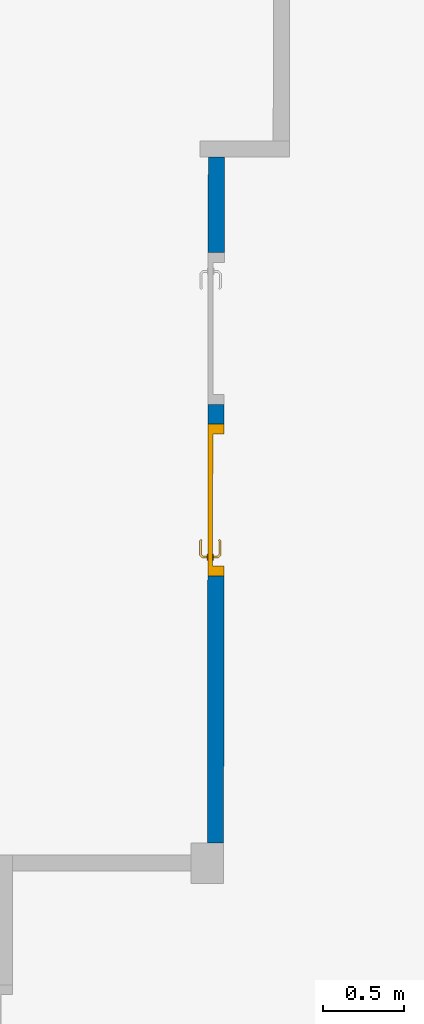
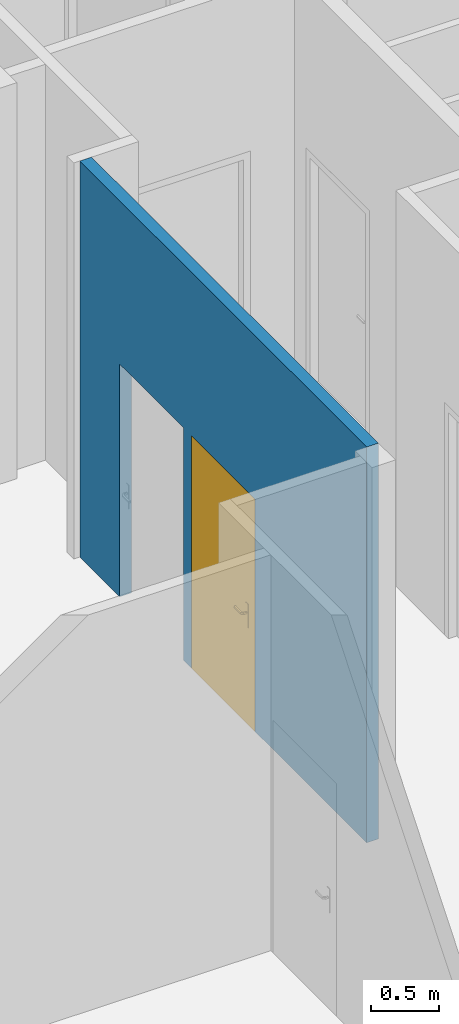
# One storey, part 48 of 101: 1 door, 1 wall, 2 openings.
"""IFC2X3 building model written with IfcOpenShell, lengths in metres."""

from ifc_helpers import new_model, entity, si_unit, converted_unit, derived_unit, direction, frame, frame_2d, origin, place, context, subcontext, project, spatial, rectangle, extrude, faceted_brep, source, transform, mapped, material, material_list, layer, layer_set, layer_usage, type_object, type_shapes, element, fill, save


model = new_model("IFC2X3")

# Units and contexts
model_context = context("Model", 3, precision=1e-05, world=origin(), true_north=direction((6.123233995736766e-17, 1.0)))
body_context = subcontext(model_context, "Body", "Model", "MODEL_VIEW")
ifc_project = project(units=[si_unit("LENGTHUNIT", "METRE"), si_unit("AREAUNIT", "SQUARE_METRE"), converted_unit("PLANEANGLEUNIT", "DEGREE", entity("IfcPlaneAngleMeasure", 0.017453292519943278), si_unit("PLANEANGLEUNIT", "RADIAN"), dimensions=[0, 0, 0, 0, 0, 0, 0]), derived_unit("THERMALTRANSMITTANCEUNIT", [(si_unit("MASSUNIT", "GRAM", prefix="KILO"), 1), (si_unit("THERMODYNAMICTEMPERATUREUNIT", "KELVIN"), -1), (si_unit("TIMEUNIT", "SECOND"), -3)])], contexts=[model_context])

# Site, building, storey
site_placement = place(None, frame((1253.6752467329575, 2072.143113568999, 91.49999999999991), z_axis=(0.0, 0.0, 1.0), x_axis=(0.7237211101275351, 0.6900925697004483, 0.0)))
site = spatial("IfcSite", under=ifc_project, at=site_placement, Name="Surface", CompositionType="ELEMENT")
building_placement = place(site_placement, origin())
building = spatial("IfcBuilding", under=site, at=building_placement, CompositionType="ELEMENT")
storey_placement = place(building_placement, origin())
storey = spatial("IfcBuildingStorey", under=building, at=storey_placement, Name="0- Rdc", CompositionType="ELEMENT", Elevation=-5.764692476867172e-13)

# Wall, openings, door
ifc_material_1 = material(Name="OMD_Béton blanc")
ifc_layer = layer(ifc_material_1, 0.1)
ifc_layer_set = layer_set([ifc_layer], Name="Mur de base:MUR 10")
ifc_layer_usage = layer_usage(ifc_layer_set, "AXIS2", "NEGATIVE", 0.05)
wall_type = type_object("IfcWallType", Name="Mur de base:MUR 10", PredefinedType="STANDARD", material=ifc_layer_set)
wall_placement = place(storey_placement, frame((157.25359361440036, 10.229599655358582, 0.0), z_axis=(0.0, 0.0, 1.0), x_axis=(-0.6909838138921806, -0.7228702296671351, 0.0)))
wall = element("IfcWallStandardCase", 1, at=wall_placement, inside=storey, type_object=wall_type, material=ifc_layer_usage, Name="Mur de base:MUR 10", ObjectType="Mur de base:MUR 10", context=body_context, shape_type="SweptSolid", body=[
    extrude(rectangle(XDim=4.225000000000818, YDim=0.10000000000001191, at=frame_2d((2.112500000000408, -6.293576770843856e-15), x_axis=(-1.0, 0.0))), origin(), (0.0, 0.0, 1.0), 3.5499999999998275),
])
opening_1_placement = place(wall_placement, frame((2.5800000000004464, 0.05000000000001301, 0.0)))
opening_1 = element("IfcOpeningElement", 2, at=opening_1_placement, cuts=wall, Name="OMD_Porte 1V tunnel:80x204:1", ObjectType="Opening", context=body_context, shape_type="SweptSolid", body=[
    extrude(rectangle(XDim=2.0850000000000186, YDim=0.9349999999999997, at=frame_2d((1.0425000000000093, 0.46749999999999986), x_axis=(1.0, 0.0))), frame((0.0, 0.0, 0.0), z_axis=(0.0, -1.0, 0.0), x_axis=(0.0, 0.0, 1.0)), (0.0, 0.0, 1.0), 0.09999999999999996),
])
opening_2_placement = place(wall_placement, frame((1.5237500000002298, 0.05000000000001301, 0.0)))
element("IfcOpeningElement", 3, at=opening_2_placement, cuts=wall, Name="OMD_Porte 1V tunnel:80x204:1", ObjectType="Opening", context=body_context, shape_type="SweptSolid", body=[
    extrude(rectangle(XDim=2.0850000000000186, YDim=0.9349999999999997, at=frame_2d((1.0425000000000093, 0.46749999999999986), x_axis=(1.0, 0.0))), frame((0.0, 0.0, 0.0), z_axis=(0.0, -1.0, 0.0), x_axis=(0.0, 0.0, 1.0)), (0.0, 0.0, 1.0), 0.09999999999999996),
])
ifc_material_2 = material(Name="Porte - Poignée")
ifc_material_3 = material(Name="OMD_Peinture mur")
ifc_material_4 = material(Name="OMD_Bois")
ifc_material_list = material_list([ifc_material_2, ifc_material_3, ifc_material_4])
door_style = type_object("IfcDoorStyle", Name="OMD_Porte 1V tunnel:80x204", ConstructionType="NOTDEFINED", OperationType="NOTDEFINED", ParameterTakesPrecedence=False, Sizeable=False, material=ifc_material_list)
shared_shape = source(origin(), body_context, "Body", "Brep", [
    faceted_brep([(0.8220252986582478, 0.03500000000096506, 1.0077804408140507), (0.8179747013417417, 0.03500000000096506, 1.007780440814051), (0.8139999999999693, 0.03500000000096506, 1.00699999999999), (0.8139999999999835, 0.03500000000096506, 0.9930000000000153), (0.8179747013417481, 0.03500000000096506, 0.9922195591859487), (0.8220252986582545, 0.03500000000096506, 0.9922195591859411), (0.8260000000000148, 0.03500000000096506, 0.9929999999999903), (0.826000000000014, 0.03500000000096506, 1.006999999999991), (0.8139999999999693, 0.05748520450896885, 1.00699999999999), (0.8139999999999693, 0.05748520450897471, 0.9930000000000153), (0.8179747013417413, 0.059131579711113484, 1.007780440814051), (0.8220252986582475, 0.060809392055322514, 1.0077804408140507), (0.8058389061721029, 0.07699578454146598, 1.0077804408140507), (0.8041610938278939, 0.07294518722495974, 1.007780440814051), (0.7207931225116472, 0.07294518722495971, 1.0077804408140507), (0.7191153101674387, 0.07699578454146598, 1.0077804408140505), (0.7114510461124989, 0.06933152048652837, 1.0077804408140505), (0.714315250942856, 0.0664673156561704, 1.0077804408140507), (0.8260000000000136, 0.062455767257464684, 1.006999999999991), (0.8260000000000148, 0.062455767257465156, 0.9929999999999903), (0.8220252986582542, 0.06080939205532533, 0.9922195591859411), (0.8179747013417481, 0.05913157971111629, 0.9922195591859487), (0.8041610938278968, 0.07294518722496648, 0.9922195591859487), (0.8058389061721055, 0.07699578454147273, 0.9922195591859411), (0.7191153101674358, 0.07699578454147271, 0.9922195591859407), (0.7207931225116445, 0.07294518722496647, 0.9922195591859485), (0.7143152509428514, 0.06646731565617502, 0.9922195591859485), (0.7114510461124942, 0.06933152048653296, 0.9922195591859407), (0.8025147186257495, 0.06897048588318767, 1.00699999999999), (0.8025147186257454, 0.06897048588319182, 0.9930000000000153), (0.8074852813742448, 0.08097048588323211, 1.006999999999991), (0.8074852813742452, 0.08097048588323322, 0.9929999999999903), (0.7624771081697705, 0.06897048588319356, 1.0069999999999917), (0.7224394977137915, 0.06897048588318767, 1.0069999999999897), (0.7224394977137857, 0.0689704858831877, 0.9930000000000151), (0.7624771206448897, 0.06897048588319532, 0.9930000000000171), (0.7624771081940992, 0.07512492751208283, 1.0078781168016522), (0.7573994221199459, 0.08097048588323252, 1.0069999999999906), (0.7174689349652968, 0.08097048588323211, 1.0069999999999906), (0.7675547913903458, 0.08097048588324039, 0.9929999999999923), (0.7174689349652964, 0.08097048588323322, 0.99299999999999), (0.762477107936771, 0.07512492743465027, 0.9921218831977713), (0.7086405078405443, 0.07214205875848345, 1.0069999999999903), (0.7086405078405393, 0.07214205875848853, 0.9929999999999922), (0.7171257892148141, 0.06365677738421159, 0.9930000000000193), (0.71712578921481, 0.06365677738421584, 1.0069999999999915)], [[[0, 1, 2, 3, 4, 5, 6, 7]], [[8, 9, 3, 2]], [[1, 10, 8, 2]], [[1, 0, 11, 12, 13, 10]], [[14, 15, 16, 17]], [[7, 18, 11, 0]], [[18, 7, 6, 19]], [[6, 5, 20, 19]], [[5, 4, 21, 22, 23, 20]], [[24, 25, 26, 27]], [[4, 3, 9, 21]], [[28, 29, 9, 8]], [[8, 10, 13, 28]], [[18, 30, 12, 11]], [[31, 30, 18, 19]], [[19, 20, 23, 31]], [[21, 9, 29, 22]], [[29, 28, 32, 33, 34, 35]], [[36, 32, 13]], [[37, 38, 15]], [[37, 12, 30]], [[36, 12, 37]], [[14, 32, 36]], [[36, 15, 14]], [[28, 13, 32]], [[32, 14, 33]], [[12, 36, 13]], [[15, 36, 37]], [[30, 31, 39, 40, 38, 37]], [[23, 41, 39]], [[24, 39, 41]], [[39, 31, 23]], [[39, 24, 40]], [[22, 35, 41]], [[41, 23, 22]], [[41, 35, 25]], [[35, 22, 29]], [[34, 25, 35]], [[24, 41, 25]], [[17, 16, 42, 43, 27, 26, 44, 45]], [[45, 44, 34, 33]], [[33, 14, 17, 45]], [[15, 38, 42, 16]], [[43, 42, 38, 40]], [[24, 27, 43, 40]], [[34, 44, 26, 25]]]),
    faceted_brep([(0.817974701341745, -0.004999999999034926, 1.007780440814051), (0.8220252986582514, -0.004999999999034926, 1.0077804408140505), (0.8260000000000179, -0.004999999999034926, 1.0069999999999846), (0.8260000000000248, -0.004999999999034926, 0.9929999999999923), (0.8220252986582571, -0.004999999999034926, 0.992219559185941), (0.817974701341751, -0.004999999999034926, 0.9922195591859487), (0.8139999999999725, -0.004999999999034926, 0.9930000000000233), (0.8139999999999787, -0.004999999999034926, 1.006999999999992), (0.8220252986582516, -0.03100457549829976, 1.0077804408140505), (0.8260000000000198, -0.03265095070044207, 1.0069999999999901), (0.8179747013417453, -0.02932676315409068, 1.007780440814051), (0.8042986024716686, -0.04300286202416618, 1.007780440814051), (0.8059764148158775, -0.04705345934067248, 1.0077804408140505), (0.7191424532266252, -0.04705345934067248, 1.0077804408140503), (0.7208202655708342, -0.04300286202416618, 1.0077804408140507), (0.714342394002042, -0.03652499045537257, 1.0077804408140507), (0.7114781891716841, -0.039389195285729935, 1.0077804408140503), (0.813999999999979, -0.02768038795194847, 1.006999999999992), (0.8139999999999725, -0.02768038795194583, 0.9930000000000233), (0.817974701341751, -0.029326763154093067, 0.9922195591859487), (0.8220252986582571, -0.031004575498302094, 0.992219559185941), (0.8059764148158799, -0.0470534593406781, 0.992219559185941), (0.804298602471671, -0.04300286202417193, 0.9922195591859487), (0.7208202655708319, -0.04300286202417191, 0.9922195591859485), (0.7191424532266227, -0.047053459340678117, 0.9922195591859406), (0.71147818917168, -0.03938919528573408, 0.9922195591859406), (0.7143423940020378, -0.036524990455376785, 0.9922195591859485), (0.8260000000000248, -0.032650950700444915, 0.9929999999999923), (0.807622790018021, -0.051028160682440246, 1.0069999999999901), (0.8026522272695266, -0.03902816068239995, 1.006999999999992), (0.8026522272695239, -0.03902816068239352, 0.9930000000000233), (0.8076227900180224, -0.05102816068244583, 0.9929999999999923), (0.762559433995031, -0.0451828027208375, 1.0078781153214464), (0.7676923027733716, -0.05102816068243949, 1.0069999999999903), (0.7174960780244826, -0.05102816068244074, 1.00699999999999), (0.7625594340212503, -0.03902816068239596, 1.0069999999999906), (0.7224666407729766, -0.039028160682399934, 1.0069999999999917), (0.7625594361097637, -0.03902816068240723, 0.9930000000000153), (0.7224666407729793, -0.03902816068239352, 0.9930000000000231), (0.7625594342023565, -0.04518280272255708, 0.9921218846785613), (0.7574265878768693, -0.051028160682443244, 0.9929999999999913), (0.7174960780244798, -0.05102816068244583, 0.9929999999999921), (0.7171529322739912, -0.033714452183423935, 0.9930000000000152), (0.7086676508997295, -0.04219973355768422, 0.9929999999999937), (0.7086676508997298, -0.04219973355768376, 1.0069999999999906), (0.717152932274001, -0.03371445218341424, 1.0069999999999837)], [[[0, 1, 2, 3, 4, 5, 6, 7]], [[2, 1, 8, 9]], [[1, 0, 10, 11, 12, 8]], [[13, 14, 15, 16]], [[0, 7, 17, 10]], [[18, 17, 7, 6]], [[5, 19, 18, 6]], [[5, 4, 20, 21, 22, 19]], [[23, 24, 25, 26]], [[3, 27, 20, 4]], [[9, 27, 3, 2]], [[9, 8, 12, 28]], [[10, 17, 29, 11]], [[30, 29, 17, 18]], [[18, 19, 22, 30]], [[20, 27, 31, 21]], [[28, 31, 27, 9]], [[12, 32, 33]], [[13, 33, 32]], [[33, 28, 12]], [[33, 13, 34]], [[11, 35, 32]], [[32, 12, 11]], [[32, 35, 14]], [[35, 11, 29]], [[36, 14, 35]], [[13, 32, 14]], [[29, 30, 37, 38, 36, 35]], [[39, 37, 22]], [[40, 41, 24]], [[40, 21, 31]], [[39, 21, 40]], [[23, 37, 39]], [[39, 24, 23]], [[30, 22, 37]], [[37, 23, 38]], [[21, 39, 22]], [[24, 39, 40]], [[31, 28, 33, 34, 41, 40]], [[42, 26, 25, 43, 44, 16, 15, 45]], [[13, 16, 44, 34]], [[36, 45, 15, 14]], [[42, 45, 36, 38]], [[38, 23, 26, 42]], [[24, 41, 43, 25]], [[44, 43, 41, 34]]]),
    faceted_brep([(0.8199999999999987, 0.030000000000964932, 0.8646410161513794), (0.8303527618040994, 0.03000000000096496, 0.866003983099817), (0.8399999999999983, 0.030000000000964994, 0.8700000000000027), (0.8399999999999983, 0.030000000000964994, 1.0800000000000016), (0.8303527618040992, 0.03000000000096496, 1.0839960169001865), (0.8199999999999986, 0.030000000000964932, 1.0853589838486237), (0.809647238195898, 0.030000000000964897, 1.0839960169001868), (0.7999999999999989, 0.030000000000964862, 1.0800000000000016), (0.7999999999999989, 0.030000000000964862, 0.8700000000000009), (0.8096472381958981, 0.030000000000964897, 0.8660039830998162), (0.8199999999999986, 0.03500000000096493, 1.0853589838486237), (0.8303527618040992, 0.03500000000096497, 1.0839960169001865), (0.8399999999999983, 0.035000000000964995, 1.0800000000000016), (0.8399999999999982, 0.035000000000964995, 0.8700000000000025), (0.8303527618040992, 0.03500000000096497, 0.866003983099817), (0.8199999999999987, 0.03500000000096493, 0.8646410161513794), (0.8096472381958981, 0.0350000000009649, 0.8660039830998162), (0.7999999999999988, 0.03500000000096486, 0.8700000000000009), (0.7999999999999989, 0.03500000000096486, 1.0800000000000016), (0.809647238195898, 0.0350000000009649, 1.0839960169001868)], [[[0, 1, 2, 3, 4, 5, 6, 7, 8, 9]], [[10, 11, 12, 13, 14, 15, 16, 17, 18, 19]], [[6, 19, 18, 7]], [[5, 10, 19, 6]], [[4, 11, 10, 5]], [[4, 3, 12, 11]], [[12, 3, 2, 13]], [[1, 14, 13, 2]], [[0, 15, 14, 1]], [[9, 16, 15, 0]], [[9, 8, 17, 16]], [[17, 8, 7, 18]]]),
    faceted_brep([(0.819999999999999, -0.004999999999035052, 0.8646410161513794), (0.8303527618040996, -0.0049999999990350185, 0.8660039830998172), (0.8399999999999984, -0.004999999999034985, 0.8700000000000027), (0.8399999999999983, -0.004999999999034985, 1.0800000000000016), (0.8303527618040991, -0.0049999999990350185, 1.0839960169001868), (0.8199999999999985, -0.004999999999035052, 1.0853589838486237), (0.8096472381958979, -0.004999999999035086, 1.0839960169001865), (0.7999999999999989, -0.004999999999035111, 1.0800000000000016), (0.7999999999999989, -0.004999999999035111, 0.8700000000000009), (0.8096472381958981, -0.004999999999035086, 0.8660039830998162), (0.8399999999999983, 0.0, 1.0800000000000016), (0.8399999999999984, 0.0, 0.8700000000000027), (0.8303527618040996, 0.0, 0.8660039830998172), (0.819999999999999, 0.0, 0.8646410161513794), (0.8096472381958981, 0.0, 0.8660039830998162), (0.7999999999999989, 0.0, 0.8700000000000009), (0.7999999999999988, 0.0, 1.0800000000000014), (0.8096472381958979, 0.0, 1.0839960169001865), (0.8199999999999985, 0.0, 1.0853589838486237), (0.8303527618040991, 0.0, 1.0839960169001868)], [[[0, 1, 2, 3, 4, 5, 6, 7, 8, 9]], [[10, 11, 12, 13, 14, 15, 16, 17, 18, 19]], [[1, 12, 11, 2]], [[0, 13, 12, 1]], [[9, 14, 13, 0]], [[9, 8, 15, 14]], [[15, 8, 7, 16]], [[6, 17, 16, 7]], [[5, 18, 17, 6]], [[4, 19, 18, 5]], [[4, 3, 10, 19]], [[10, 3, 2, 11]]]),
    faceted_brep([(0.89, 0.030000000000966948, 0.0), (0.89, 0.0, 0.0), (0.04500000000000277, 0.0, 0.0), (0.04500000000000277, 0.030000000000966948, 0.0), (0.89, 0.030000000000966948, 2.04), (0.89, 0.0, 2.04), (0.04500000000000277, 0.0, 2.04), (0.04500000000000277, 0.030000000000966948, 2.04)], [[[0, 1, 2, 3]], [[4, 5, 1, 0]], [[5, 6, 2, 1]], [[6, 7, 3, 2]], [[7, 4, 0, 3]], [[4, 7, 6, 5]]]),
    faceted_brep([(0.9350000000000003, 0.0, 0.0), (0.89, 0.0, 0.0), (0.8900000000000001, 0.03000000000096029, 0.0), (0.8750000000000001, 0.030000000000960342, 0.0), (0.8750000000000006, 0.10000000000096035, 0.0), (0.9350000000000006, 0.10000000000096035, 0.0), (0.9350000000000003, 0.0, 2.085), (0.0, 0.0, 2.085), (0.0, 0.0, 0.0), (0.04500000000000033, 0.0, 0.0), (0.04500000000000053, 0.0, 2.04), (0.8899999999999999, 0.0, 2.0399999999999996), (0.89, 0.030000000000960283, 2.0399999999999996), (0.0450000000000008, 0.03000000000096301, 2.0399999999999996), (0.0450000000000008, 0.030000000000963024, 0.0), (0.060000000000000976, 0.030000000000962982, 0.0), (0.060000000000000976, 0.03000000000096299, 2.0249999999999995), (0.8750000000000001, 0.03000000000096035, 2.025), (0.8750000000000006, 0.10000000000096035, 2.0250000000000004), (0.060000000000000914, 0.10000000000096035, 2.025), (0.060000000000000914, 0.10000000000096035, 0.0), (0.0, 0.10000000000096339, 0.0), (0.0, 0.10000000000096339, 2.085), (0.9350000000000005, 0.10000000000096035, 2.085)], [[[0, 1, 2, 3, 4, 5]], [[1, 0, 6, 7, 8, 9, 10, 11]], [[2, 1, 11, 12]], [[3, 2, 12, 13, 14, 15, 16, 17]], [[4, 3, 17, 18]], [[5, 4, 18, 19, 20, 21, 22, 23]], [[0, 5, 23, 6]], [[7, 22, 21, 8]], [[8, 21, 20, 15, 14, 9]], [[13, 10, 9, 14]], [[19, 16, 15, 20]], [[12, 11, 10, 13]], [[18, 17, 16, 19]], [[6, 23, 22, 7]]]),
])
type_shapes(door_style, [shared_shape])
door_placement = place(opening_1_placement, frame((-0.9350000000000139, -0.10000000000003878, 0.0)))
door = element("IfcDoor", 4, at=door_placement, inside=storey, type_object=door_style, material=ifc_material_list, Name="OMD_Porte 1V tunnel:80x204", ObjectType="OMD_Porte 1V tunnel:80x204", OverallHeight=2.0850000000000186, OverallWidth=0.9350000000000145, context=body_context, shape_type="MappedRepresentation", body=[
    mapped(shared_shape, transform((0.0, 0.0, 0.0), scale=1.0)),
])
fill(opening_1, door)

save(model, "model.ifc")
